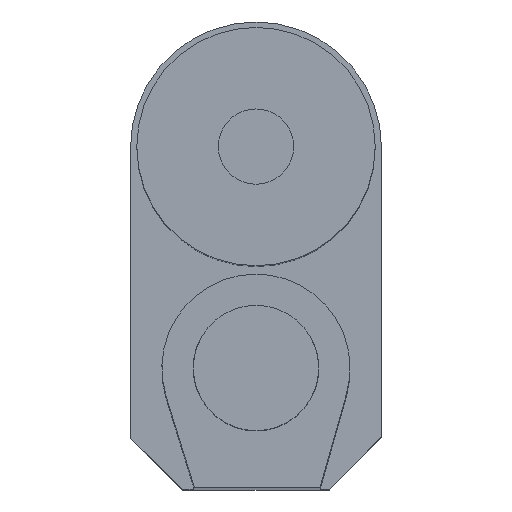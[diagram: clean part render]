
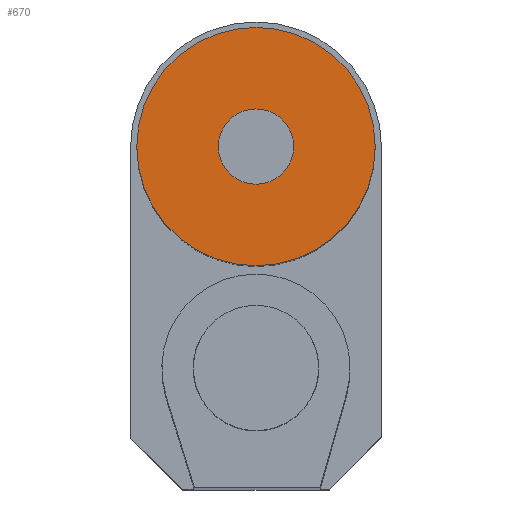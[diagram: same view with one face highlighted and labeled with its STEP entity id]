
A CAD part, top view. The second image highlights one B-rep face of the part: STEP entity #670.
In plain terms, the highlighted planar face has unit normal (0, 0, 1).
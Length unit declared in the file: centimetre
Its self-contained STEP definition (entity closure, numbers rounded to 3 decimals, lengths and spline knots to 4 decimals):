
#209=VERTEX_POINT('',#2993);
#252=VERTEX_POINT('',#3751);
#267=EDGE_CURVE('',#209,#209,#1506,.T.);
#333=EDGE_CURVE('',#252,#252,#1525,.T.);
#477=ORIENTED_EDGE('',*,*,#267,.T.);
#478=ORIENTED_EDGE('',*,*,#333,.F.);
#572=EDGE_LOOP('',(#477));
#573=EDGE_LOOP('',(#478));
#626=FACE_BOUND('',#572,.T.);
#627=FACE_BOUND('',#573,.T.);
#670=ADVANCED_FACE('',(#626,#627),#2320,.T.);
#1506=CIRCLE('',#2072,0.6);
#1525=CIRCLE('',#2120,1.9);
#2072=AXIS2_PLACEMENT_3D('',#2992,#2550,#2551);
#2120=AXIS2_PLACEMENT_3D('',#3750,#2673,#2674);
#2122=AXIS2_PLACEMENT_3D('',#3754,#2677,$);
#2320=PLANE('',#2122);
#2550=DIRECTION('',(0.,0.,-1.));
#2551=DIRECTION('',(0.6,0.,0.));
#2673=DIRECTION('',(0.,0.,-1.));
#2674=DIRECTION('',(1.9,0.,0.));
#2677=DIRECTION('',(0.,0.,1.));
#2992=CARTESIAN_POINT('',(0.,0.,13.5));
#2993=CARTESIAN_POINT('',(0.6,0.,13.5));
#3750=CARTESIAN_POINT('',(0.,0.,13.5));
#3751=CARTESIAN_POINT('',(1.9,0.,13.5));
#3754=CARTESIAN_POINT('',(0.,0.,13.5));
